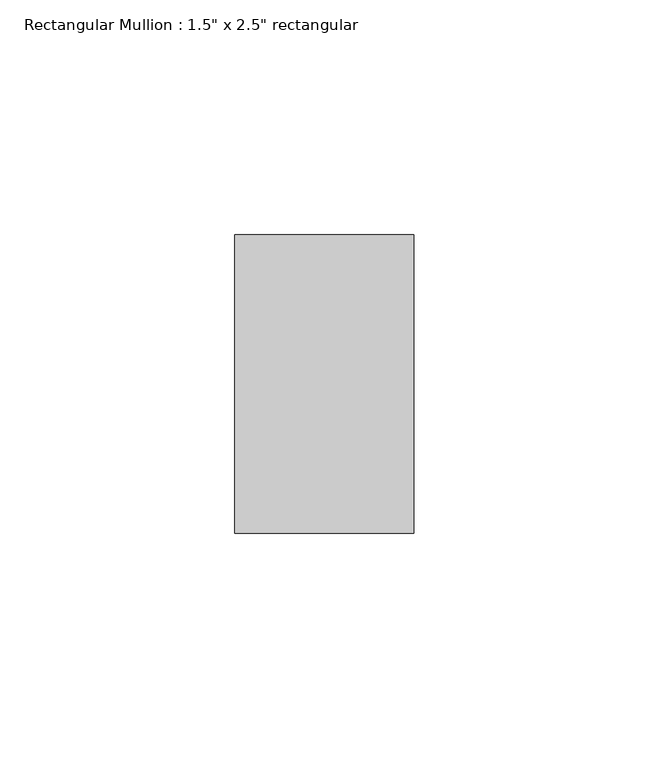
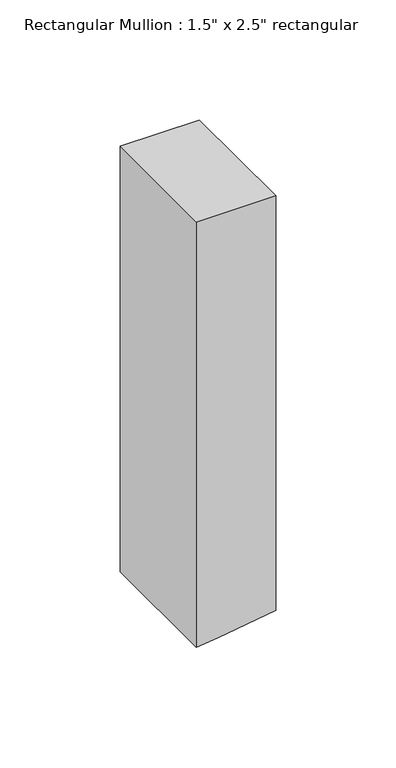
"""IFC4 building model written with IfcOpenShell, lengths in millimetres: member geometry."""

from ifc_helpers import new_model, si_unit, frame, origin, place, context, project, spatial, polyline, outline, extrude, source, transform, mapped, element, save


def member_a898b6db(model_context):
    return source(origin(), model_context, "Body", "SweptSolid", [
        extrude(outline(polyline([(0.0, 19.05), (0.0, -19.05), (-216.5166952, -19.05), (-215.2615134, -8.6227624), (-211.0058748, 19.05), (0.0, 19.05)])), frame((0.0, -31.75, 0.0), z_axis=(0.0, 1.0, 0.0), x_axis=(0.0, 0.0, 1.0)), (0.0, 0.0, 1.0), 63.5),
    ])


if __name__ == "__main__":
    model = new_model("IFC4")
    model_context = context("Model", 3, world=origin())
    ifc_project = project(units=[si_unit("LENGTHUNIT", "METRE", prefix="MILLI")], contexts=[model_context])
    site = spatial("IfcSite", under=ifc_project)
    building = spatial("IfcBuilding", under=site)
    placement = place(None, origin())
    member_shape = member_a898b6db(model_context)
    element("IfcMember", 1, ObjectType="Rectangular Mullion : 1.5\" x 2.5\" rectangular", at=placement, inside=building, context=model_context, shape_type="MappedRepresentation", body=[
        mapped(member_shape, transform((0.0, 0.0, 0.0), x_axis=(1.0, 0.0, 0.0), y_axis=(0.0, 1.0, 0.0), z_axis=(0.0, 0.0, 1.0))),
    ])
    save(model, "model.ifc")
